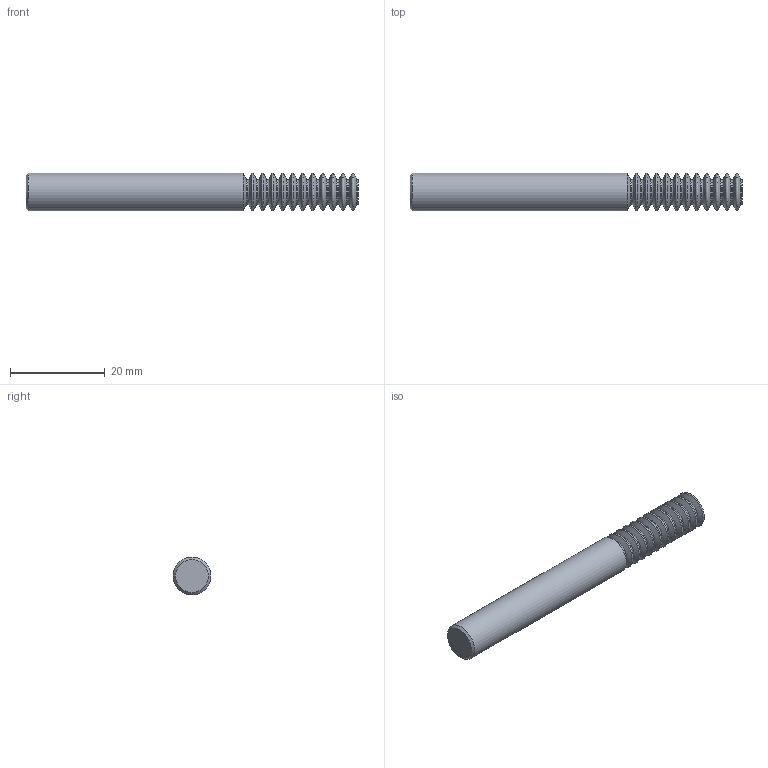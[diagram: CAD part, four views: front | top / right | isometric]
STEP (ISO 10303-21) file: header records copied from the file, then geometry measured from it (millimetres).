
FILE_DESCRIPTION(/* description */ (''),/* implementation_level */ '2;1');
FILE_NAME(/* name */ '00032248-TDM',/* time_stamp */ '2024-02-20T08:44:34+01:00',/* author */ (''),/* organization */ (''),/* preprocessor_version */ 'ST-DEVELOPER v16.5',/* originating_system */ 'HiCAD 2017 2201.0 Build 268',/* authorisation */ '');
FILE_SCHEMA (('AUTOMOTIVE_DESIGN { 1 0 10303 214 1 1 1 1 }'));
Length unit declared in the file: millimetre
Products named in the file (3): Root; ROTATIONSTEIL_0
Assembly tree (2 placements, depth 3):
  Root
    ROTATIONSTEIL_0
      ROTATIONSTEIL_0
Bounding box: 70 x 8 x 8 mm (x, y, z)
Volume: 3108.1 mm3; surface area: 2115.1 mm2
Topology: 2 solids, 2 shells, 76 faces, 148 edges, 76 vertices
Faces by surface type: torus 34, cone 24, cylinder 14, plane 4
Full cylindrical faces by diameter (mm): 5.208 x13, 8 x1
Entity records: 2304 total; most frequent: DIRECTION 308, CARTESIAN_POINT 228, AXIS2_PLACEMENT_3D 154, PRESENTATION_STYLE_ASSIGNMENT 150, COLOUR_RGB 150, DRAUGHTING_PRE_DEFINED_CURVE_FONT 148, CURVE_STYLE 148, OVER_RIDING_STYLED_ITEM 148
